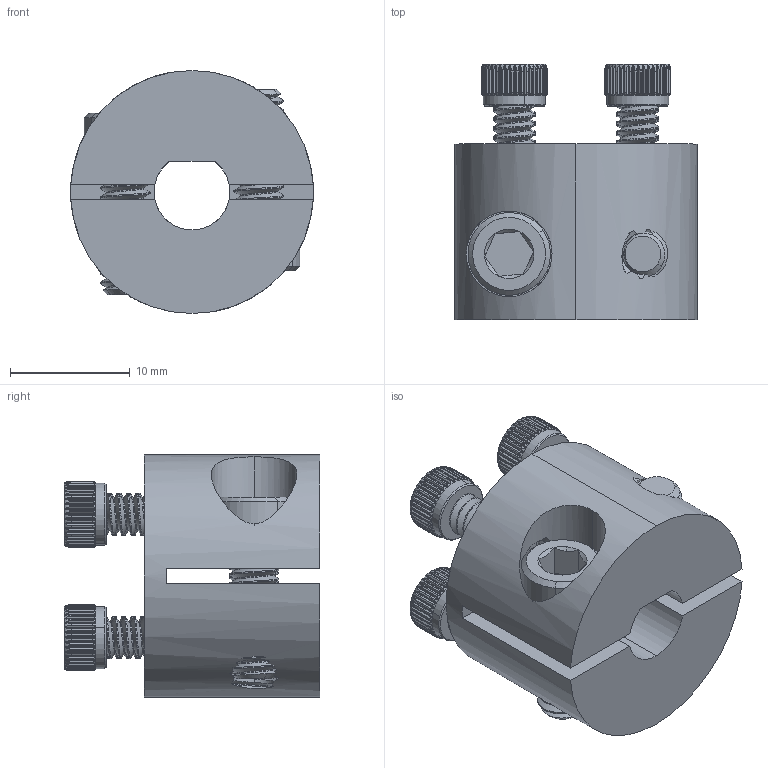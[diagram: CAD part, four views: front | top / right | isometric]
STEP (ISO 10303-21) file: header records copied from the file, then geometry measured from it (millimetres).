
FILE_DESCRIPTION (( 'STEP AP203' ), '1' );
FILE_NAME ('545694 assembly.STEP', '2019-01-03T21:38:42', ( '' ), ( '' ), 'SwSTEP 2.0', 'SolidWorks 2016', '' );
FILE_SCHEMA (( 'CONFIG_CONTROL_DESIGN' ));
Length unit declared in the file: millimetre
Products named in the file (4): 545694 screw_91864A024; 545694 assembly; 545694; 632108_90128A121
Assembly tree (7 placements, depth 2):
  545694 assembly
    545694
    545694 screw_91864A024  x2
    632108_90128A121  x4
Bounding box: 20.32 x 21.37 x 20.32 mm (x, y, z)
Volume: 4175.3 mm3; surface area: 4716.7 mm2
Topology: 7 solids, 7 shells, 4052 faces, 9905 edges, 5878 vertices
Faces by surface type: bspline 1844, cylinder 1490, plane 552, cone 90, torus 76
Entity records: 99513 total; most frequent: CARTESIAN_POINT 72449, ORIENTED_EDGE 6932, DIRECTION 3879, EDGE_CURVE 3466, VERTEX_POINT 2126, AXIS2_PLACEMENT_3D 1567, EDGE_LOOP 1370, FACE_OUTER_BOUND 1349
